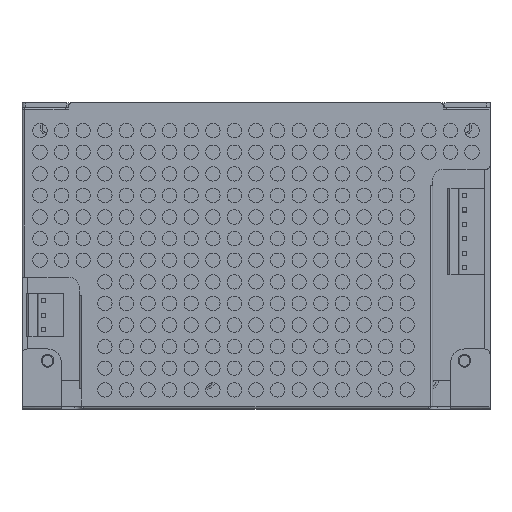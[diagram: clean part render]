
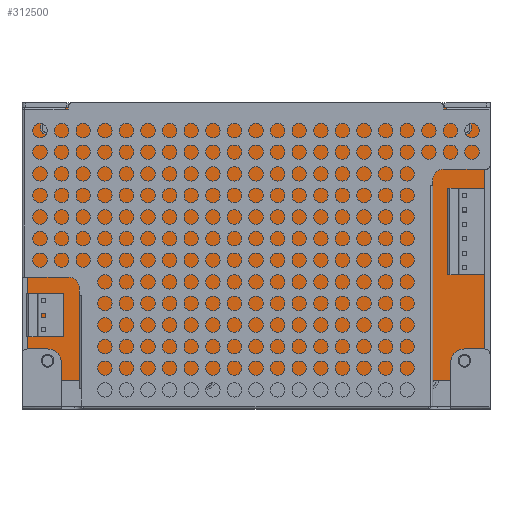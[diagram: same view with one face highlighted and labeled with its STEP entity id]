
A CAD part, top view. The second image highlights one B-rep face of the part: STEP entity #312500.
In plain terms, the highlighted planar face has unit normal (0, 0, 1).
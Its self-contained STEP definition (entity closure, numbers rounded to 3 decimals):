
#309280=CARTESIAN_POINT('',(163.477,5.639,0.));
#309290=VERTEX_POINT('',#309280);
#309340=CARTESIAN_POINT('',(161.477,5.639,0.));
#309350=DIRECTION('',(0.,0.,-1.));
#309360=DIRECTION('',(1.,0.,0.));
#309370=AXIS2_PLACEMENT_3D('',#309340,#309350,#309360);
#309380=CIRCLE('',#309370,2.);
#309390=CARTESIAN_POINT('',(159.477,5.639,0.));
#309400=VERTEX_POINT('',#309390);
#309410=EDGE_CURVE('',#309290,#309400,#309380,.T.);
#310740=CARTESIAN_POINT('',(167.077,0.039,0.));
#310750=VERTEX_POINT('',#310740);
#310780=CARTESIAN_POINT('',(167.077,76.039,0.));
#310790=DIRECTION('',(0.,-1.,0.));
#310800=VECTOR('',#310790,1.);
#310810=LINE('',#310780,#310800);
#310820=CARTESIAN_POINT('',(167.077,76.039,0.));
#310830=VERTEX_POINT('',#310820);
#310840=EDGE_CURVE('',#310830,#310750,#310810,.T.);
#311120=CARTESIAN_POINT('',(40.077,0.039,0.));
#311130=VERTEX_POINT('',#311120);
#311160=CARTESIAN_POINT('',(167.077,0.039,0.));
#311170=DIRECTION('',(-1.,0.,0.));
#311180=VECTOR('',#311170,1.);
#311190=LINE('',#311160,#311180);
#311200=EDGE_CURVE('',#310750,#311130,#311190,.T.);
#311430=CARTESIAN_POINT('',(40.077,76.039,0.));
#311440=VERTEX_POINT('',#311430);
#311470=CARTESIAN_POINT('',(40.077,0.039,0.));
#311480=DIRECTION('',(0.,1.,0.));
#311490=VECTOR('',#311480,1.);
#311500=LINE('',#311470,#311490);
#311510=EDGE_CURVE('',#311130,#311440,#311500,.T.);
#311710=CARTESIAN_POINT('',(40.077,76.039,0.));
#311720=DIRECTION('',(1.,0.,0.));
#311730=VECTOR('',#311720,1.);
#311740=LINE('',#311710,#311730);
#311750=EDGE_CURVE('',#311440,#310830,#311740,.T.);
#311890=CARTESIAN_POINT('',(103.577,38.039,0.));
#311900=DIRECTION('',(0.,0.,1.));
#311910=DIRECTION('',(1.,0.,0.));
#311920=AXIS2_PLACEMENT_3D('',#311890,#311900,#311910);
#311930=PLANE('',#311920);
#311940=ORIENTED_EDGE('',*,*,#311510,.F.);
#311950=ORIENTED_EDGE('',*,*,#311750,.F.);
#311960=ORIENTED_EDGE('',*,*,#310840,.F.);
#311970=ORIENTED_EDGE('',*,*,#311200,.F.);
#311980=EDGE_LOOP('',(#311970,#311960,#311950,#311940));
#311990=FACE_OUTER_BOUND('',#311980,.T.);
#312000=ORIENTED_EDGE('',*,*,#309410,.T.);
#312010=EDGE_CURVE('',#309400,#309290,#309380,.T.);
#312020=ORIENTED_EDGE('',*,*,#312010,.T.);
#312030=EDGE_LOOP('',(#312020,#312000));
#312040=FACE_BOUND('',#312030,.T.);
#312050=CARTESIAN_POINT('',(161.477,70.439,0.));
#312060=DIRECTION('',(0.,0.,-1.));
#312070=DIRECTION('',(-1.,0.,0.));
#312080=AXIS2_PLACEMENT_3D('',#312050,#312060,#312070);
#312090=CIRCLE('',#312080,2.);
#312100=CARTESIAN_POINT('',(163.477,70.439,0.));
#312110=VERTEX_POINT('',#312100);
#312120=CARTESIAN_POINT('',(159.477,70.439,0.));
#312130=VERTEX_POINT('',#312120);
#312140=EDGE_CURVE('',#312110,#312130,#312090,.T.);
#312150=ORIENTED_EDGE('',*,*,#312140,.T.);
#312160=EDGE_CURVE('',#312130,#312110,#312090,.T.);
#312170=ORIENTED_EDGE('',*,*,#312160,.T.);
#312180=EDGE_LOOP('',(#312170,#312150));
#312190=FACE_BOUND('',#312180,.T.);
#312200=CARTESIAN_POINT('',(45.677,5.639,0.));
#312210=DIRECTION('',(0.,0.,-1.));
#312220=DIRECTION('',(-1.,0.,0.));
#312230=AXIS2_PLACEMENT_3D('',#312200,#312210,#312220);
#312240=CIRCLE('',#312230,2.);
#312250=CARTESIAN_POINT('',(43.677,5.639,0.));
#312260=VERTEX_POINT('',#312250);
#312270=CARTESIAN_POINT('',(47.677,5.639,0.));
#312280=VERTEX_POINT('',#312270);
#312290=EDGE_CURVE('',#312260,#312280,#312240,.T.);
#312300=ORIENTED_EDGE('',*,*,#312290,.T.);
#312310=EDGE_CURVE('',#312280,#312260,#312240,.T.);
#312320=ORIENTED_EDGE('',*,*,#312310,.T.);
#312330=EDGE_LOOP('',(#312320,#312300));
#312340=FACE_BOUND('',#312330,.T.);
#312350=CARTESIAN_POINT('',(45.677,70.439,0.));
#312360=DIRECTION('',(0.,0.,-1.));
#312370=DIRECTION('',(-1.,0.,0.));
#312380=AXIS2_PLACEMENT_3D('',#312350,#312360,#312370);
#312390=CIRCLE('',#312380,2.);
#312400=CARTESIAN_POINT('',(43.677,70.439,0.));
#312410=VERTEX_POINT('',#312400);
#312420=CARTESIAN_POINT('',(47.677,70.439,0.));
#312430=VERTEX_POINT('',#312420);
#312440=EDGE_CURVE('',#312410,#312430,#312390,.T.);
#312450=ORIENTED_EDGE('',*,*,#312440,.T.);
#312460=EDGE_CURVE('',#312430,#312410,#312390,.T.);
#312470=ORIENTED_EDGE('',*,*,#312460,.T.);
#312480=EDGE_LOOP('',(#312470,#312450));
#312490=FACE_BOUND('',#312480,.T.);
#312500=ADVANCED_FACE('',(#311990,#312040,#312190,#312340,#312490),
#311930,.T.);
